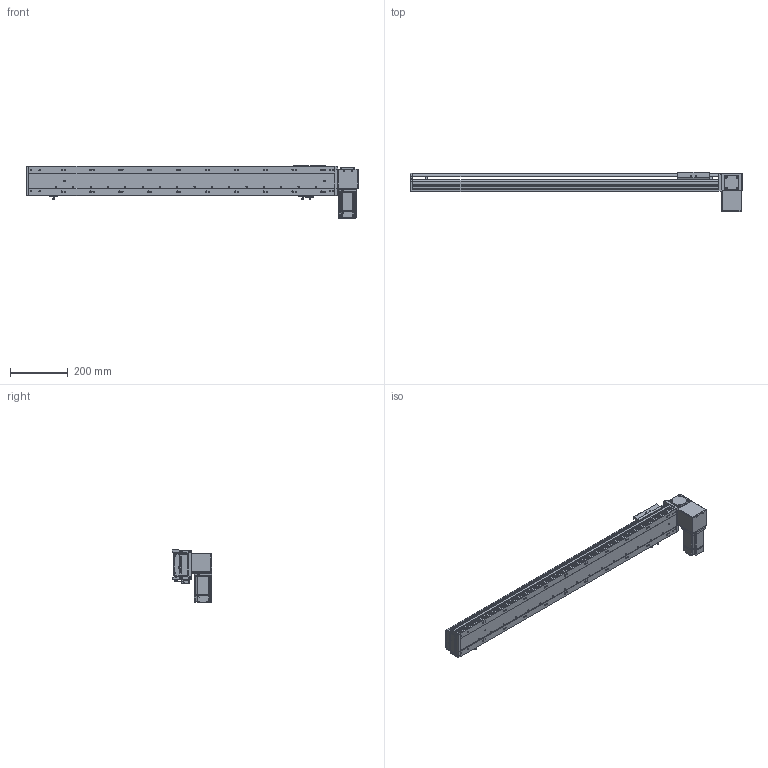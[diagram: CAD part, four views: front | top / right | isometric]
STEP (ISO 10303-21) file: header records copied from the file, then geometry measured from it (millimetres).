
FILE_DESCRIPTION (( 'STEP AP203' ), '1' );
FILE_NAME ('RY100-T-300-DL.SLDASM_850.step', '2024-04-24T01:11:17', ( '盈信电脑' ), ( '东莞市道滘镇水果街19号' ), 'SwSTEP 2.0', 'SolidWorks 2016', '' );
FILE_SCHEMA (( 'CONFIG_CONTROL_DESIGN' ));
Length unit declared in the file: millimetre
Products named in the file (16): RY100-T粣創揤踡裔; RY100-T-300-DL.SLDASM_850; RY100-T翋肮祭謫裔啣; RY100綴裔啣; RY100俋离覜茼え; RY100-T翋肮祭謫裔啣2; RY100-T-300-RK倰第菁釱_850; RY80-T肮祭謫狟殏俋欶; RY100-T左右折电机安装板; RY100-T-300-RK倰第奻裔_850; 1; 覜茼ん672; RY100-T肮祭謫翋盓傅釱; RY100-T翋肮祭謫粣; RY100-T肮祭謫臏賑輸; 滅袉蝶18-10
Assembly tree (18 placements, depth 2):
  RY100-T-300-DL.SLDASM_850
    RY100-T-300-RK倰第菁釱_850
    RY100-T-300-RK倰第奻裔_850
    RY100-T肮祭謫臏賑輸
    RY100綴裔啣
    覜茼ん672  x3
    RY100俋离覜茼え
    RY100-T翋肮祭謫粣
    RY100-T肮祭謫翋盓傅釱
    滅袉蝶18-10  x2
    RY100-T翋肮祭謫裔啣
    1
    RY100-T左右折电机安装板
    RY100-T粣創揤踡裔
    RY100-T翋肮祭謫裔啣2
    RY80-T肮祭謫狟殏俋欶
Bounding box: 1150 x 135.5 x 182.5 mm (x, y, z)
Volume: 2398825.1 mm3; surface area: 981050 mm2
Topology: 18 solids, 18 shells, 2287 faces, 6362 edges, 4132 vertices
Faces by surface type: plane 1223, cylinder 841, cone 145, bspline 78
Entity records: 74217 total; most frequent: CARTESIAN_POINT 18092, ORIENTED_EDGE 11556, DIRECTION 10998, EDGE_CURVE 5778, VERTEX_POINT 3800, VECTOR 3688, LINE 3688, AXIS2_PLACEMENT_3D 3655
